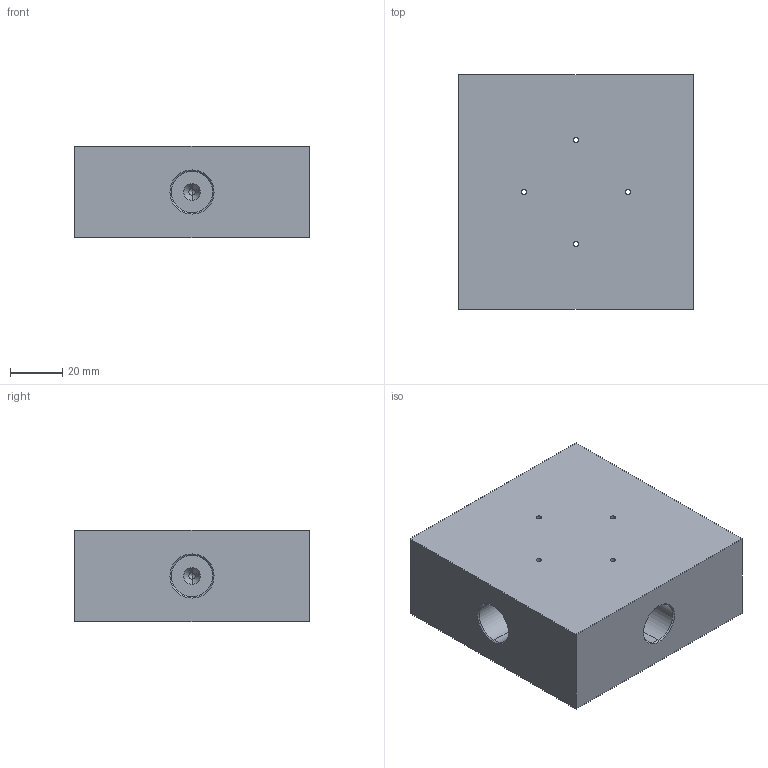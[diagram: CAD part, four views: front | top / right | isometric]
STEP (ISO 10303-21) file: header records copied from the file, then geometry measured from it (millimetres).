
FILE_DESCRIPTION (( 'STEP AP203' ), '1' );
FILE_NAME ('FT150CS06.STEP', '2026-06-26T00:52:30', ( 'USER' ), ( '' ), 'SwSTEP 2.0', 'SolidWorks 2023', '' );
FILE_SCHEMA (( 'CONFIG_CONTROL_DESIGN' ));
Length unit declared in the file: millimetre
Products named in the file (1): FT150CS06
Bounding box: 90 x 90 x 35 mm (x, y, z)
Volume: 261508.9 mm3; surface area: 34851.6 mm2
Topology: 1 solids, 1 shells, 66 faces, 172 edges, 100 vertices
Faces by surface type: cylinder 32, cone 24, plane 10
Entity records: 2273 total; most frequent: CARTESIAN_POINT 595, DIRECTION 338, ORIENTED_EDGE 328, EDGE_CURVE 164, AXIS2_PLACEMENT_3D 131, VERTEX_POINT 100, EDGE_LOOP 82, LINE 76
